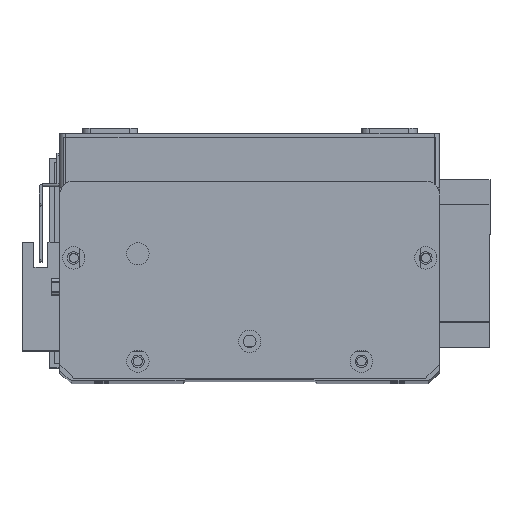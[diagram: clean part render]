
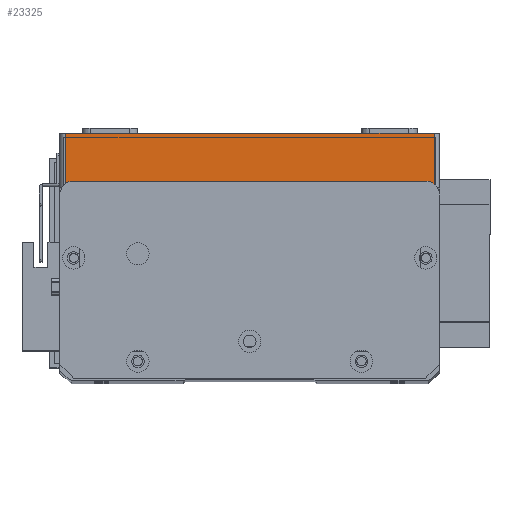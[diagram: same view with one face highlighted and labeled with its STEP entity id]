
A CAD part, top view. The second image highlights one B-rep face of the part: STEP entity #23325.
In plain terms, the highlighted planar face has unit normal (0, 0, 1) as drawn and (0, -1, 0) by its records, which use the part's own axes.
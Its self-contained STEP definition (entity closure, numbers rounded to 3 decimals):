
#144 = LINE ( 'NONE', #17752, #17048 ) ;
#539 = VERTEX_POINT ( 'NONE', #28157 ) ;
#1078 = ORIENTED_EDGE ( 'NONE', *, *, #16470, .F. ) ;
#2368 = CARTESIAN_POINT ( 'NONE',  ( 0., 0., 19.5 ) ) ;
#3231 = EDGE_LOOP ( 'NONE', ( #1078, #14682, #14256, #27476 ) ) ;
#3480 = VECTOR ( 'NONE', #25995, 1000. ) ;
#4185 = CARTESIAN_POINT ( 'NONE',  ( 0., 0., 0. ) ) ;
#4195 = LINE ( 'NONE', #12714, #3480 ) ;
#4763 = VERTEX_POINT ( 'NONE', #17249 ) ;
#5055 = VERTEX_POINT ( 'NONE', #8941 ) ;
#5522 = VERTEX_POINT ( 'NONE', #8241 ) ;
#7224 = CARTESIAN_POINT ( 'NONE',  ( 2., 0., 19.5 ) ) ;
#8241 = CARTESIAN_POINT ( 'NONE',  ( 134., 0., 0. ) ) ;
#8941 = CARTESIAN_POINT ( 'NONE',  ( 134., 0., 19.5 ) ) ;
#9018 = DIRECTION ( 'NONE',  ( 0., 0., 1. ) ) ;
#9879 = EDGE_CURVE ( 'NONE', #539, #5522, #17951, .T. ) ;
#10836 = DIRECTION ( 'NONE',  ( 1., 0., 0. ) ) ;
#11136 = PLANE ( 'NONE',  #16594 ) ;
#12038 = VECTOR ( 'NONE', #10836, 1000. ) ;
#12714 = CARTESIAN_POINT ( 'NONE',  ( 0., 0., 19.5 ) ) ;
#14256 = ORIENTED_EDGE ( 'NONE', *, *, #9879, .T. ) ;
#14682 = ORIENTED_EDGE ( 'NONE', *, *, #16122, .T. ) ;
#16077 = DIRECTION ( 'NONE',  ( 0., 0., -1. ) ) ;
#16122 = EDGE_CURVE ( 'NONE', #4763, #539, #23555, .T. ) ;
#16470 = EDGE_CURVE ( 'NONE', #4763, #5055, #4195, .T. ) ;
#16594 = AXIS2_PLACEMENT_3D ( 'NONE', #2368, #22262, #9018 ) ;
#17048 = VECTOR ( 'NONE', #22224, 1000. ) ;
#17249 = CARTESIAN_POINT ( 'NONE',  ( 2., 0., 19.5 ) ) ;
#17674 = VECTOR ( 'NONE', #16077, 1000. ) ;
#17752 = CARTESIAN_POINT ( 'NONE',  ( 134., 0., 19.5 ) ) ;
#17951 = LINE ( 'NONE', #4185, #12038 ) ;
#20803 = EDGE_CURVE ( 'NONE', #5522, #5055, #144, .T. ) ;
#22224 = DIRECTION ( 'NONE',  ( 0., 0., 1. ) ) ;
#22262 = DIRECTION ( 'NONE',  ( 0., 1., 0. ) ) ;
#23325 = ADVANCED_FACE ( 'NONE', ( #27290 ), #11136, .F. ) ;
#23555 = LINE ( 'NONE', #7224, #17674 ) ;
#25995 = DIRECTION ( 'NONE',  ( 1., 0., 0. ) ) ;
#27290 = FACE_OUTER_BOUND ( 'NONE', #3231, .T. ) ;
#27476 = ORIENTED_EDGE ( 'NONE', *, *, #20803, .T. ) ;
#28157 = CARTESIAN_POINT ( 'NONE',  ( 2., 0., 0. ) ) ;
